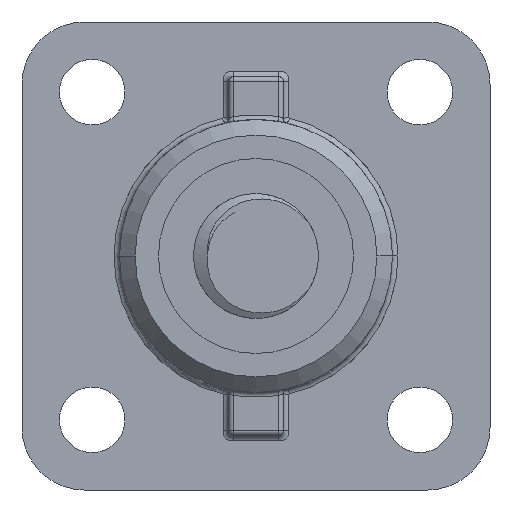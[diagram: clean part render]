
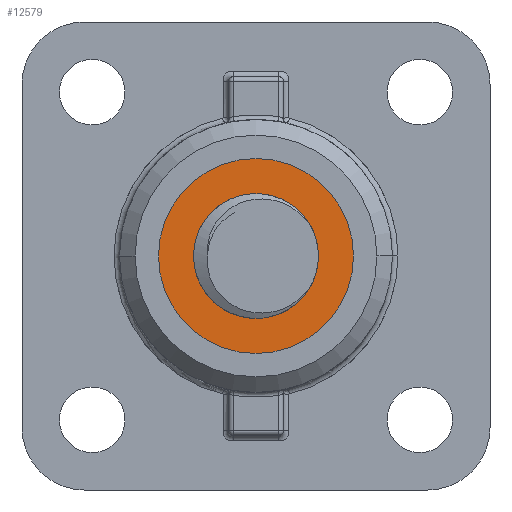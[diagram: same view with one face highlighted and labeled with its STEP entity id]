
A CAD part, front view. The second image highlights one B-rep face of the part: STEP entity #12579.
In plain terms, the highlighted planar face has unit normal (0, -1, 0).
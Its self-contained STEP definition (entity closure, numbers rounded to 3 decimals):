
#176 = AXIS2_PLACEMENT_3D ( 'NONE', #1528, #8344, #2509 ) ;
#266 = CARTESIAN_POINT ( 'NONE',  ( 0., -18.5, 0. ) ) ;
#396 = EDGE_CURVE ( 'NONE', #9467, #7620, #1230, .T. ) ;
#494 = FACE_BOUND ( 'NONE', #2028, .T. ) ;
#588 = CARTESIAN_POINT ( 'NONE',  ( 0., -18.5, 3.1 ) ) ;
#896 = VERTEX_POINT ( 'NONE', #3469 ) ;
#913 = AXIS2_PLACEMENT_3D ( 'NONE', #10737, #4925, #11703 ) ;
#1068 = ORIENTED_EDGE ( 'NONE', *, *, #396, .F. ) ;
#1230 = CIRCLE ( 'NONE', #10249, 3.1 ) ;
#1254 = DIRECTION ( 'NONE',  ( 0., 0., -1. ) ) ;
#1528 = CARTESIAN_POINT ( 'NONE',  ( 0., -18.5, 0. ) ) ;
#1920 = CARTESIAN_POINT ( 'NONE',  ( 0., -18.5, 6.25 ) ) ;
#2028 = EDGE_LOOP ( 'NONE', ( #6553, #1068 ) ) ;
#2191 = EDGE_CURVE ( 'NONE', #7620, #9467, #8246, .T. ) ;
#2509 = DIRECTION ( 'NONE',  ( 0., 0., -1. ) ) ;
#2520 = DIRECTION ( 'NONE',  ( 0., -1., 0. ) ) ;
#2743 = CARTESIAN_POINT ( 'NONE',  ( 0., -18.5, -3.1 ) ) ;
#3061 = DIRECTION ( 'NONE',  ( 0., -1., 0. ) ) ;
#3469 = CARTESIAN_POINT ( 'NONE',  ( 0., -18.5, -6.25 ) ) ;
#4687 = AXIS2_PLACEMENT_3D ( 'NONE', #266, #7124, #1254 ) ;
#4925 = DIRECTION ( 'NONE',  ( 0., -1., 0. ) ) ;
#5430 = FACE_OUTER_BOUND ( 'NONE', #7261, .T. ) ;
#5833 = EDGE_CURVE ( 'NONE', #896, #10369, #7440, .T. ) ;
#6045 = CIRCLE ( 'NONE', #11459, 6.25 ) ;
#6328 = ORIENTED_EDGE ( 'NONE', *, *, #6976, .T. ) ;
#6553 = ORIENTED_EDGE ( 'NONE', *, *, #2191, .F. ) ;
#6976 = EDGE_CURVE ( 'NONE', #10369, #896, #6045, .T. ) ;
#7124 = DIRECTION ( 'NONE',  ( 0., -1., 0. ) ) ;
#7261 = EDGE_LOOP ( 'NONE', ( #6328, #12192 ) ) ;
#7440 = CIRCLE ( 'NONE', #913, 6.25 ) ;
#7620 = VERTEX_POINT ( 'NONE', #588 ) ;
#8246 = CIRCLE ( 'NONE', #176, 3.1 ) ;
#8344 = DIRECTION ( 'NONE',  ( 0., -1., 0. ) ) ;
#8347 = CARTESIAN_POINT ( 'NONE',  ( 0., -18.5, 0. ) ) ;
#8886 = CARTESIAN_POINT ( 'NONE',  ( 0., -18.5, 0. ) ) ;
#9008 = PLANE ( 'NONE',  #4687 ) ;
#9333 = DIRECTION ( 'NONE',  ( 0., 0., -1. ) ) ;
#9467 = VERTEX_POINT ( 'NONE', #2743 ) ;
#9869 = DIRECTION ( 'NONE',  ( 0., 0., -1. ) ) ;
#10249 = AXIS2_PLACEMENT_3D ( 'NONE', #8347, #2520, #9333 ) ;
#10369 = VERTEX_POINT ( 'NONE', #1920 ) ;
#10737 = CARTESIAN_POINT ( 'NONE',  ( 0., -18.5, 0. ) ) ;
#11459 = AXIS2_PLACEMENT_3D ( 'NONE', #8886, #3061, #9869 ) ;
#11703 = DIRECTION ( 'NONE',  ( 0., 0., -1. ) ) ;
#12192 = ORIENTED_EDGE ( 'NONE', *, *, #5833, .T. ) ;
#12579 = ADVANCED_FACE ( 'NONE', ( #5430, #494 ), #9008, .T. ) ;
